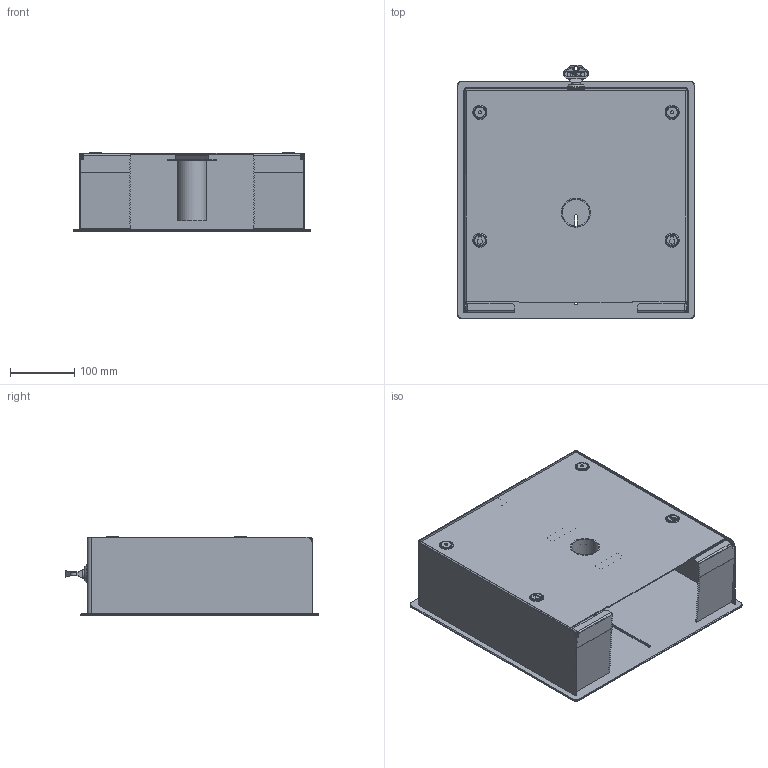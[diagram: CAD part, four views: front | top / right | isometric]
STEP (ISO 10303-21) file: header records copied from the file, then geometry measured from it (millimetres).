
FILE_DESCRIPTION(/* description */ (''),/* implementation_level */ '2;1');
FILE_NAME(/* name */ 'X:\Standardvarer\4080 DAN DRYER LOKI toilet paper dispenser Jumbo\Tegninger\Public 3D files\408x DAN DRYER LOKI toilet paper dispenser Jumbo.stp',/* time_stamp */ '2020-09-28T15:23:05+02:00',/* author */ ('Dan Dryer'),/* organization */ (''),/* preprocessor_version */ 'ST-DEVELOPER v16.1',/* originating_system */ 'Autodesk Inventor 2016',/* authorisation */ '');
FILE_SCHEMA (('AUTOMOTIVE_DESIGN { 1 0 10303 214 3 1 1 }'));
Length unit declared in the file: millimetre
Products named in the file (18): 67460-10; 67110-12; 67460-11; 67460-12; 67460; 67450-10; 67450-11; 67450-12; 67450-13; M6; 67450-14; Viking logo i streg 24x9 - tykke streger til brug i Inventor; 67450; 28200-1; 28202; 28200-2; 28200; 4080 DAN DRYER LOKI toilet paper dispenser Jumbo
Assembly tree (19 placements, depth 3):
  4080 DAN DRYER LOKI toilet paper dispenser Jumbo
    67460
      67460-10
      67110-12
      67460-11
      67460-12
    67450
      67450-10
      67450-11
      67450-12
      67450-13  x2
      M6  x2
      67450-14
      Viking logo i streg 24x9 - tykke streger til brug i Inventor
    28200
      28200-2
      28200-1
    28202
Bounding box: 370 x 394.5 x 123.6 mm (x, y, z)
Volume: 850872.5 mm3; surface area: 870391.2 mm2
Topology: 26 solids, 27 shells, 903 faces, 2330 edges, 1503 vertices
Faces by surface type: plane 636, cylinder 209, torus 25, cone 23, bspline 10
Full cylindrical faces by diameter (mm): 4.2 x2, 4.917 x2, 5 x4, 6 x3, 10 x1, 13.5 x1, 16.1 x1, 19.8 x1, 20 x1, 22 x1, 28 x1, 42 x1, 45 x1, 45.3 x2
Entity records: 29239 total; most frequent: CARTESIAN_POINT 6805, ORIENTED_EDGE 4479, DIRECTION 4431, EDGE_CURVE 2241, LINE 1717, VECTOR 1717, VERTEX_POINT 1476, AXIS2_PLACEMENT_3D 1357
